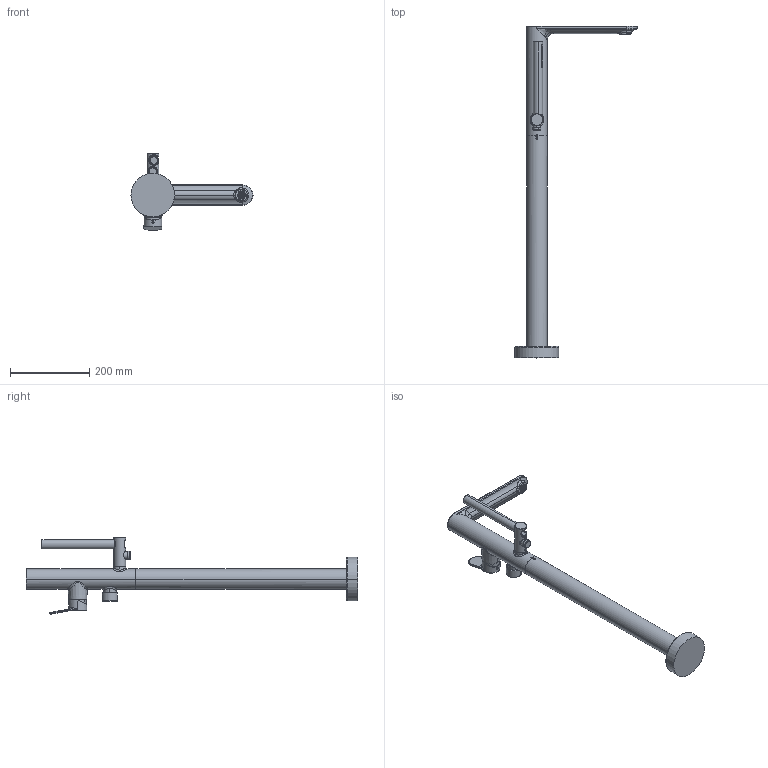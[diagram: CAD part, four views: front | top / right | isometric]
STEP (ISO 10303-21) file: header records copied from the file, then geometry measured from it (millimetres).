
FILE_DESCRIPTION (( 'STEP AP214' ), '1' );
FILE_NAME ('82122010 x architetti.STEP', '2025-01-15T09:26:17', ( '' ), ( '' ), 'SwSTEP 2.0', 'SolidWorks 2020', '' );
FILE_SCHEMA (( 'AUTOMOTIVE_DESIGN' ));
Length unit declared in the file: millimetre
Products named in the file (1): 82122010 x architetti
Bounding box: 307.9 x 837.75 x 193.21 mm (x, y, z)
Volume: 2280265.1 mm3; surface area: 256468.1 mm2
Topology: 2 solids, 6 shells, 1608 faces, 3883 edges, 2548 vertices
Faces by surface type: plane 1170, cylinder 285, bspline 104, torus 24, cone 23, sphere 2
Entity records: 94405 total; most frequent: CARTESIAN_POINT 43000, ORIENTED_EDGE 7754, DIRECTION 6687, EDGE_CURVE 3877, LINE 2977, VECTOR 2977, VERTEX_POINT 2548, EDGE_LOOP 1887
